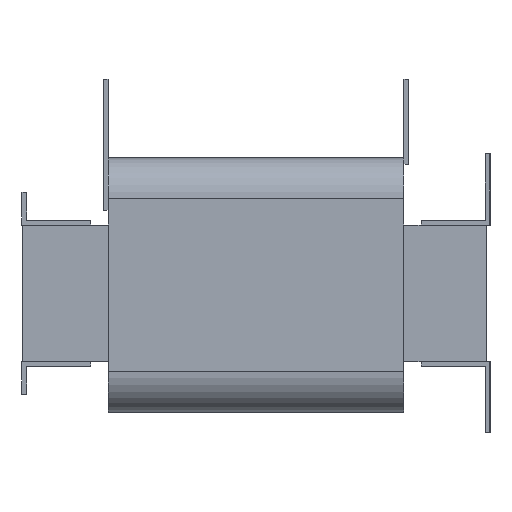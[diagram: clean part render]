
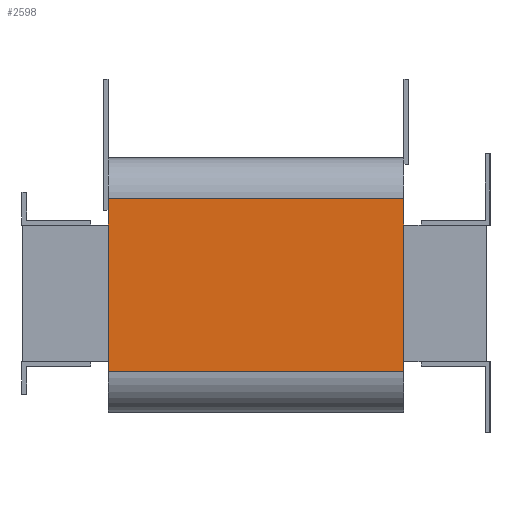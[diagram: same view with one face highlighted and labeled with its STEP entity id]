
A CAD part, left-side view. The second image highlights one B-rep face of the part: STEP entity #2598.
In plain terms, the highlighted planar face has unit normal (-1, 0, 0).
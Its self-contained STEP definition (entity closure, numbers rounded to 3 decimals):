
#102=PLANE('',#2804);
#231=FACE_OUTER_BOUND('',#381,.T.);
#381=EDGE_LOOP('',(#2166,#2167,#2168,#2169));
#630=LINE('',#4035,#948);
#649=LINE('',#4085,#967);
#650=LINE('',#4088,#968);
#651=LINE('',#4089,#969);
#948=VECTOR('',#3290,10.);
#967=VECTOR('',#3335,10.);
#968=VECTOR('',#3338,10.);
#969=VECTOR('',#3339,10.);
#1291=VERTEX_POINT('',#4032);
#1292=VERTEX_POINT('',#4034);
#1310=VERTEX_POINT('',#4083);
#1311=VERTEX_POINT('',#4087);
#1601=EDGE_CURVE('',#1291,#1292,#630,.T.);
#1627=EDGE_CURVE('',#1310,#1291,#649,.T.);
#1628=EDGE_CURVE('',#1310,#1311,#650,.T.);
#1629=EDGE_CURVE('',#1292,#1311,#651,.T.);
#2166=ORIENTED_EDGE('',*,*,#1627,.F.);
#2167=ORIENTED_EDGE('',*,*,#1628,.T.);
#2168=ORIENTED_EDGE('',*,*,#1629,.F.);
#2169=ORIENTED_EDGE('',*,*,#1601,.F.);
#2598=ADVANCED_FACE('',(#231),#102,.T.);
#2804=AXIS2_PLACEMENT_3D('',#4086,#3336,#3337);
#3290=DIRECTION('',(0.,0.,1.));
#3335=DIRECTION('',(0.,1.,0.));
#3336=DIRECTION('center_axis',(-1.,0.,0.));
#3337=DIRECTION('ref_axis',(0.,0.,1.));
#3338=DIRECTION('',(0.,0.,1.));
#3339=DIRECTION('',(0.,-1.,0.));
#4032=CARTESIAN_POINT('',(-173.5,232.5,-47.5));
#4034=CARTESIAN_POINT('',(-173.5,232.5,57.5));
#4035=CARTESIAN_POINT('',(-173.5,232.5,-72.5));
#4083=CARTESIAN_POINT('',(-173.5,52.5,-47.5));
#4085=CARTESIAN_POINT('',(-173.5,52.5,-47.5));
#4086=CARTESIAN_POINT('Origin',(-173.5,52.5,-72.5));
#4087=CARTESIAN_POINT('',(-173.5,52.5,57.5));
#4088=CARTESIAN_POINT('',(-173.5,52.5,-72.5));
#4089=CARTESIAN_POINT('',(-173.5,52.5,57.5));
